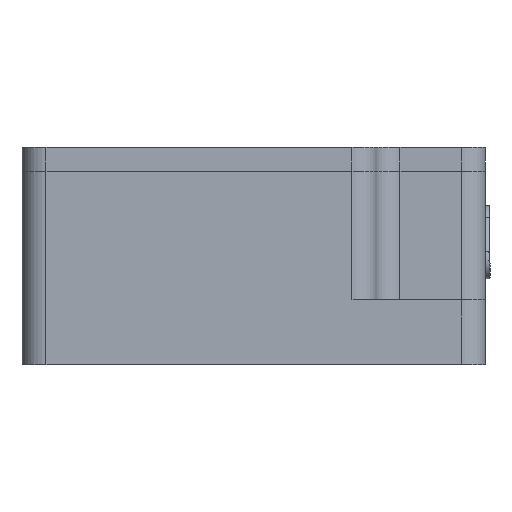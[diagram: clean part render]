
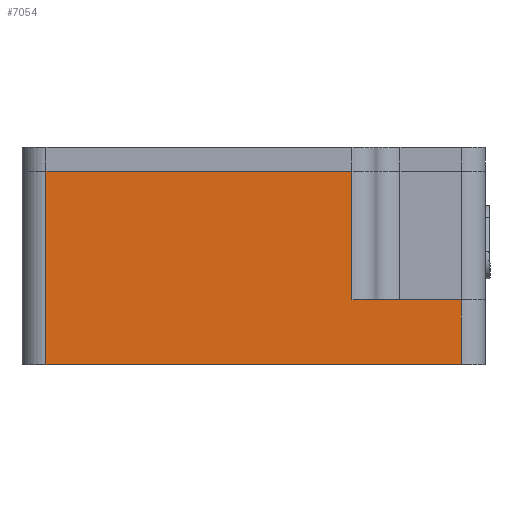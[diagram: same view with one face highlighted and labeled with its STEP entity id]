
A CAD part, left-side view. The second image highlights one B-rep face of the part: STEP entity #7054.
In plain terms, the highlighted planar face has unit normal (-1, 0, 0).
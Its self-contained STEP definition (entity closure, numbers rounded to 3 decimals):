
#44 = LINE ( 'NONE', #595, #2747 ) ;
#146 = EDGE_CURVE ( 'NONE', #5792, #10845, #5078, .T. ) ;
#450 = EDGE_CURVE ( 'NONE', #2899, #10845, #9125, .T. ) ;
#579 = LINE ( 'NONE', #10244, #11119 ) ;
#595 = CARTESIAN_POINT ( 'NONE',  ( -91.753, 32.549, 12.65 ) ) ;
#597 = EDGE_CURVE ( 'NONE', #2262, #2899, #579, .T. ) ;
#707 = CARTESIAN_POINT ( 'NONE',  ( -91.753, -2.051, 12.65 ) ) ;
#744 = DIRECTION ( 'NONE',  ( 0., -1., 0. ) ) ;
#2047 = VECTOR ( 'NONE', #6179, 1000. ) ;
#2054 = DIRECTION ( 'NONE',  ( 0., -1., 0. ) ) ;
#2262 = VERTEX_POINT ( 'NONE', #3781 ) ;
#2478 = VECTOR ( 'NONE', #4005, 1000. ) ;
#2529 = VECTOR ( 'NONE', #8543, 1000. ) ;
#2613 = VECTOR ( 'NONE', #2054, 1000. ) ;
#2747 = VECTOR ( 'NONE', #6673, 1000. ) ;
#2899 = VERTEX_POINT ( 'NONE', #5722 ) ;
#2918 = CARTESIAN_POINT ( 'NONE',  ( -91.753, 32.549, 8.25 ) ) ;
#3523 = CARTESIAN_POINT ( 'NONE',  ( -91.753, -2.051, -7.85 ) ) ;
#3651 = ORIENTED_EDGE ( 'NONE', *, *, #597, .F. ) ;
#3752 = ORIENTED_EDGE ( 'NONE', *, *, #4075, .F. ) ;
#3781 = CARTESIAN_POINT ( 'NONE',  ( -91.753, 7.049, -2.45 ) ) ;
#4005 = DIRECTION ( 'NONE',  ( 0., 0., -1. ) ) ;
#4057 = DIRECTION ( 'NONE',  ( 0., 1., 0. ) ) ;
#4075 = EDGE_CURVE ( 'NONE', #5792, #8327, #44, .T. ) ;
#4680 = EDGE_LOOP ( 'NONE', ( #10091, #6618, #3651, #11123, #10561, #3752 ) ) ;
#5078 = LINE ( 'NONE', #8028, #2613 ) ;
#5722 = CARTESIAN_POINT ( 'NONE',  ( -91.753, -2.051, -2.45 ) ) ;
#5792 = VERTEX_POINT ( 'NONE', #9156 ) ;
#6179 = DIRECTION ( 'NONE',  ( 0., -1., 0. ) ) ;
#6597 = VERTEX_POINT ( 'NONE', #7561 ) ;
#6602 = CARTESIAN_POINT ( 'NONE',  ( -91.753, 15.249, 12.65 ) ) ;
#6618 = ORIENTED_EDGE ( 'NONE', *, *, #450, .F. ) ;
#6673 = DIRECTION ( 'NONE',  ( 0., 0., 1. ) ) ;
#7054 = ADVANCED_FACE ( 'NONE', ( #9205 ), #9128, .F. ) ;
#7561 = CARTESIAN_POINT ( 'NONE',  ( -91.753, 7.049, 8.25 ) ) ;
#7594 = AXIS2_PLACEMENT_3D ( 'NONE', #6602, #10955, #4057 ) ;
#8028 = CARTESIAN_POINT ( 'NONE',  ( -91.753, 15.249, -7.85 ) ) ;
#8093 = EDGE_CURVE ( 'NONE', #6597, #2262, #10518, .T. ) ;
#8327 = VERTEX_POINT ( 'NONE', #2918 ) ;
#8543 = DIRECTION ( 'NONE',  ( 0., 0., -1. ) ) ;
#8610 = CARTESIAN_POINT ( 'NONE',  ( -91.753, 7.049, 12.65 ) ) ;
#8815 = CARTESIAN_POINT ( 'NONE',  ( -91.753, 15.249, 8.25 ) ) ;
#9125 = LINE ( 'NONE', #707, #2478 ) ;
#9128 = PLANE ( 'NONE',  #7594 ) ;
#9156 = CARTESIAN_POINT ( 'NONE',  ( -91.753, 32.549, -7.85 ) ) ;
#9205 = FACE_OUTER_BOUND ( 'NONE', #4680, .T. ) ;
#10091 = ORIENTED_EDGE ( 'NONE', *, *, #146, .T. ) ;
#10244 = CARTESIAN_POINT ( 'NONE',  ( -91.753, 15.249, -2.45 ) ) ;
#10321 = LINE ( 'NONE', #8815, #2047 ) ;
#10518 = LINE ( 'NONE', #8610, #2529 ) ;
#10561 = ORIENTED_EDGE ( 'NONE', *, *, #10927, .F. ) ;
#10845 = VERTEX_POINT ( 'NONE', #3523 ) ;
#10927 = EDGE_CURVE ( 'NONE', #8327, #6597, #10321, .T. ) ;
#10955 = DIRECTION ( 'NONE',  ( 1., 0., 0. ) ) ;
#11119 = VECTOR ( 'NONE', #744, 1000. ) ;
#11123 = ORIENTED_EDGE ( 'NONE', *, *, #8093, .F. ) ;
